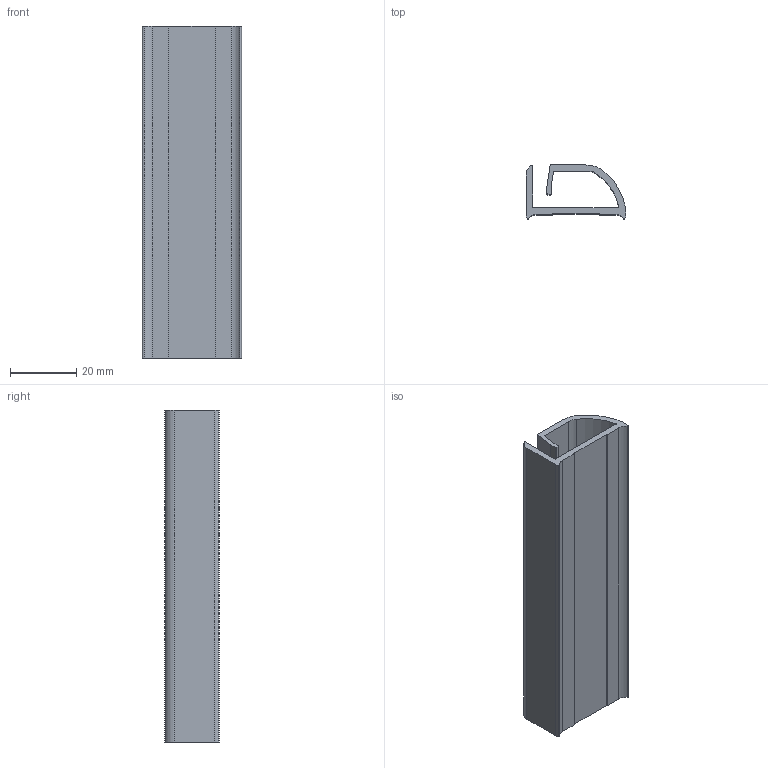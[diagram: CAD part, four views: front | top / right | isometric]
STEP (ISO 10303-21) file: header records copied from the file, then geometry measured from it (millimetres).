
FILE_DESCRIPTION (( 'STEP AP203' ), '1' );
FILE_NAME ('013.030.015.STEP', '2020-09-18T14:24:22', ( '' ), ( '' ), 'SwSTEP 2.0', 'SolidWorks 2018', '' );
FILE_SCHEMA (( 'CONFIG_CONTROL_DESIGN' ));
Length unit declared in the file: millimetre
Products named in the file (1): 013.030.015
Bounding box: 30 x 16.3 x 100 mm (x, y, z)
Volume: 14698.5 mm3; surface area: 16529.5 mm2
Topology: 1 solids, 1 shells, 34 faces, 96 edges, 64 vertices
Faces by surface type: plane 18, cylinder 14, bspline 2
Entity records: 1197 total; most frequent: CARTESIAN_POINT 221, ORIENTED_EDGE 192, DIRECTION 186, EDGE_CURVE 96, LINE 64, VERTEX_POINT 64, VECTOR 64, AXIS2_PLACEMENT_3D 61
